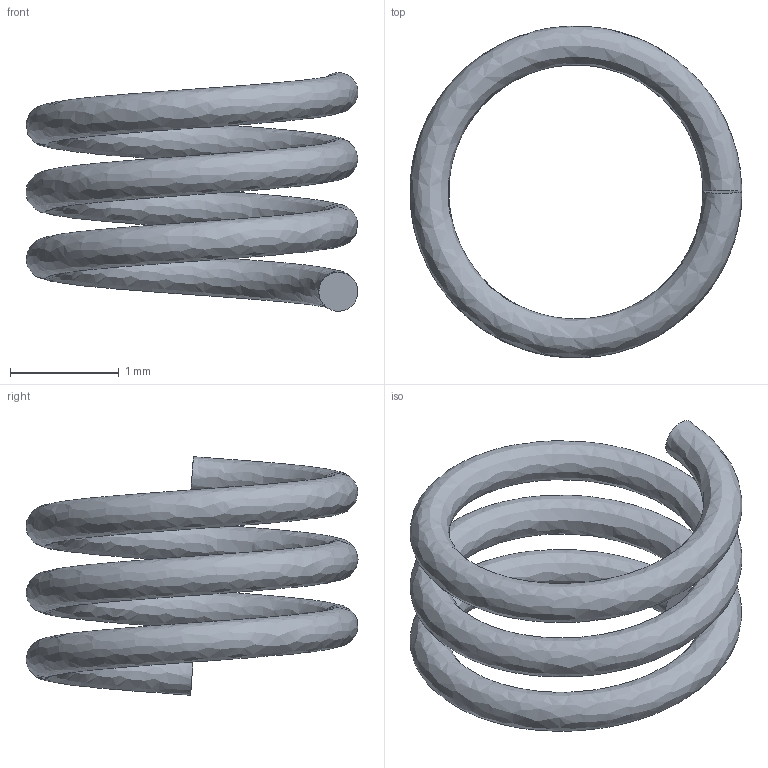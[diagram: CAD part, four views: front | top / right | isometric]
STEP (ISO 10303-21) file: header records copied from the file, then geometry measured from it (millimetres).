
FILE_DESCRIPTION(('Open CASCADE Model'),'2;1');
FILE_NAME('eject_spring','2026-11-19T17:25:15',('Author'),( 'Open CASCADE'),'Open CASCADE STEP processor 7.8','build123d', 'Unknown');
FILE_SCHEMA(('AUTOMOTIVE_DESIGN { 1 0 10303 214 1 1 1 1 }'));
Length unit declared in the file: millimetre
Products named in the file (1): eject_spring
Bounding box: 3.06 x 3.06 x 2.2 mm (x, y, z)
Volume: 2.6 mm3; surface area: 29.1 mm2
Topology: 1 solids, 1 shells, 3 faces, 3 edges, 2 vertices
Faces by surface type: plane 2, bspline 1
Entity records: 389 total; most frequent: CARTESIAN_POINT 310, DIRECTION 9, ORIENTED_EDGE 6, PCURVE 6, DEFINITIONAL_REPRESENTATION 6, AXIS2_PLACEMENT_3D 3, ADVANCED_FACE 3, FACE_BOUND 3
